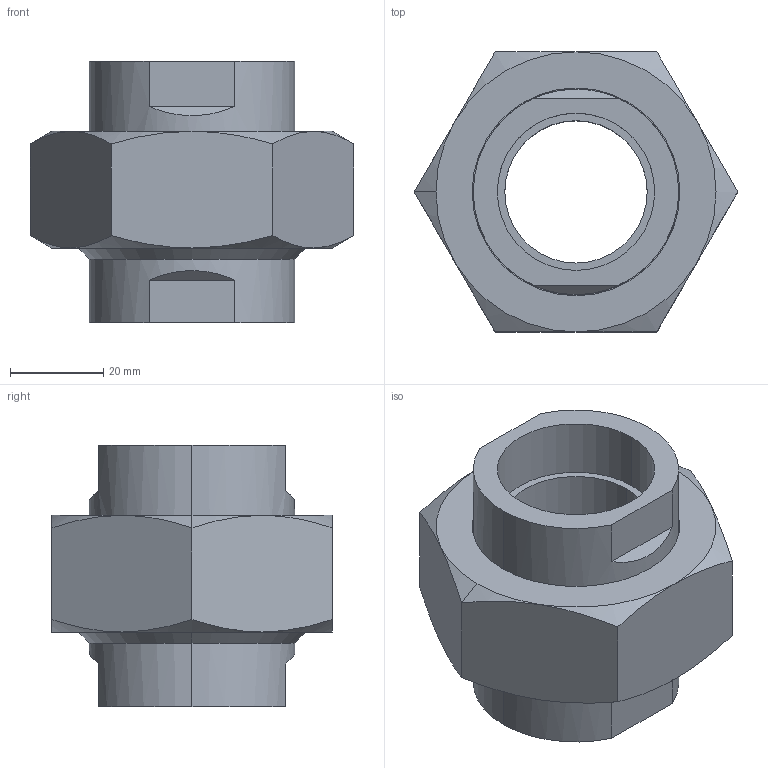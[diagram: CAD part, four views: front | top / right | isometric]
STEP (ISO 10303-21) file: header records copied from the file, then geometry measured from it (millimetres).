
FILE_DESCRIPTION (( 'STEP AP203' ), '1' );
FILE_NAME ('12-0131-09_outokumpu.step', '2015-08-12T08:08:58', ( '' ), ( '' ), 'SwSTEP 2.0', 'SolidWorks 2008', '' );
FILE_SCHEMA (( 'CONFIG_CONTROL_DESIGN' ));
Length unit declared in the file: millimetre
Products named in the file (4): 12-0131-09_outokumpu; nut-13-222-045_outokumpu_nut-13-222-045_outokumpu; case-13-555-375_outokumpu_case-13-555-375_outokumpu; nipple-13-444-195_outokumpu_nipple-13-444-195_outokumpu
Assembly tree (3 placements, depth 2):
  12-0131-09_outokumpu
    nipple-13-444-195_outokumpu_nipple-13-444-195_outokumpu
    case-13-555-375_outokumpu_case-13-555-375_outokumpu
    nut-13-222-045_outokumpu_nut-13-222-045_outokumpu
Bounding box: 69.28 x 60 x 56 mm (x, y, z)
Volume: 73597.5 mm3; surface area: 31588 mm2
Topology: 3 solids, 3 shells, 68 faces, 148 edges, 92 vertices
Faces by surface type: plane 26, cone 22, cylinder 20
Entity records: 2414 total; most frequent: CARTESIAN_POINT 502, DIRECTION 336, ORIENTED_EDGE 296, EDGE_CURVE 148, AXIS2_PLACEMENT_3D 142, VERTEX_POINT 92, EDGE_LOOP 80, ADVANCED_FACE 68
